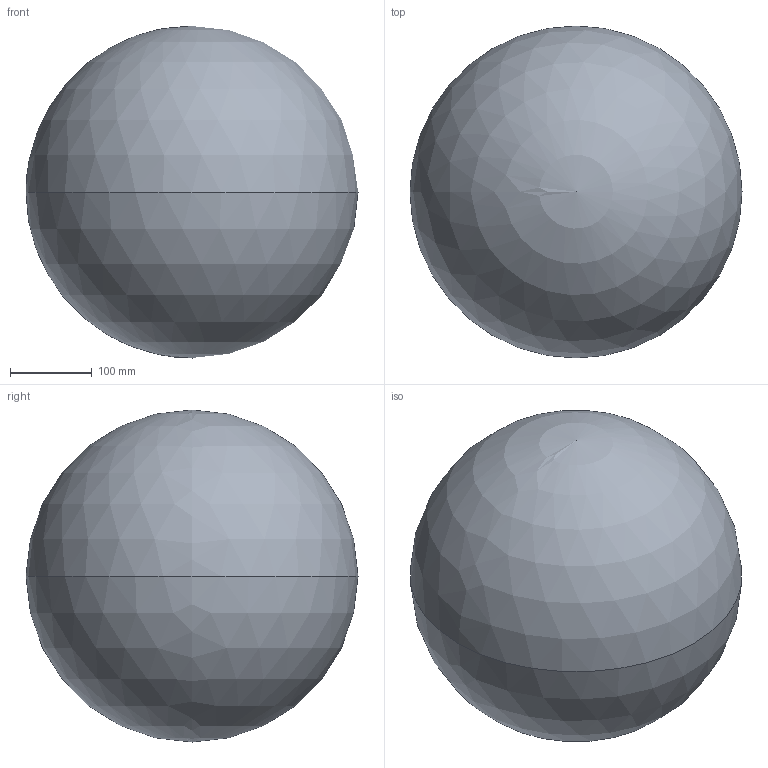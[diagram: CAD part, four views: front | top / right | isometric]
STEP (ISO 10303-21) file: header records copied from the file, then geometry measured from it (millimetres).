
FILE_DESCRIPTION (( 'STEP AP214' ), '1' );
FILE_NAME ('GE-25501.STEP', '2024-12-20T15:26:00', ( '' ), ( '' ), 'SwSTEP 2.0', 'SolidWorks 2022', '' );
FILE_SCHEMA (( 'AUTOMOTIVE_DESIGN' ));
Length unit declared in the file: inch
Products named in the file (1): GE-25501
Bounding box: 406.4 x 406.4 x 406.4 mm (x, y, z)
Volume: 35144690.3 mm3; surface area: 518868.5 mm2
Topology: 1 solids, 1 shells, 2 faces, 7 edges, 5 vertices
Faces by surface type: sphere 2
Entity records: 110 total; most frequent: DIRECTION 10, CARTESIAN_POINT 7, DIMENSIONAL_EXPONENTS 5, AXIS2_PLACEMENT_3D 5, LENGTH_MEASURE_WITH_UNIT 5, UNCERTAINTY_MEASURE_WITH_UNIT 5, FILL_AREA_STYLE_COLOUR 4, FILL_AREA_STYLE 4
